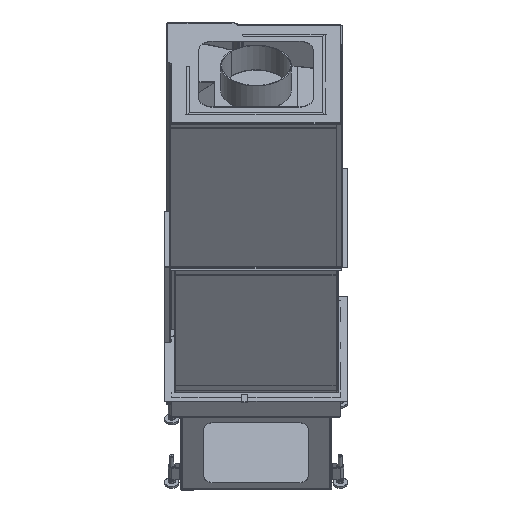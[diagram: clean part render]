
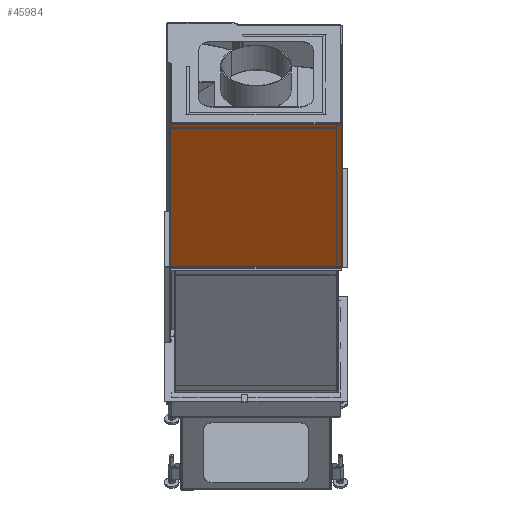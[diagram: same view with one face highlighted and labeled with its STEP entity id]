
A CAD part, isometric view. The second image highlights one B-rep face of the part: STEP entity #45984.
In plain terms, the highlighted planar face has unit normal (-0.707, -0.707, 0).
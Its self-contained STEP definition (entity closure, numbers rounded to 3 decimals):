
#45829=CARTESIAN_POINT('',(-417.897,3.674,1275.995));
#45830=VERTEX_POINT('',#45829);
#45938=CARTESIAN_POINT('',(9.028,-423.251,966.12));
#45939=DIRECTION('',(0.707,0.707,0.));
#45940=DIRECTION('',(0.0,0.0,1.0));
#45941=AXIS2_PLACEMENT_3D('',#45938,#45939,#45940);
#45942=PLANE('',#45941);
#45943=CARTESIAN_POINT('',(6.013,-420.236,1275.995));
#45944=VERTEX_POINT('',#45943);
#45945=CARTESIAN_POINT('',(7.428,-421.651,1273.995));
#45946=VERTEX_POINT('',#45945);
#45947=CARTESIAN_POINT('',(6.013,-420.236,1273.995));
#45948=DIRECTION('',(0.707,0.707,0.));
#45949=DIRECTION('',(0.5,-0.5,0.707));
#45950=AXIS2_PLACEMENT_3D('',#45947,#45948,#45949);
#45951=CIRCLE('',#45950,2.0);
#45952=EDGE_CURVE('',#45944,#45946,#45951,.T.);
#45953=ORIENTED_EDGE('',*,*,#45952,.F.);
#45954=CARTESIAN_POINT('',(-417.897,3.674,1275.995));
#45955=DIRECTION('',(0.707,-0.707,0.));
#45956=VECTOR('',#45955,599.5);
#45957=LINE('',#45954,#45956);
#45958=EDGE_CURVE('',#45830,#45944,#45957,.T.);
#45959=ORIENTED_EDGE('',*,*,#45958,.F.);
#45960=CARTESIAN_POINT('',(-417.897,3.674,660.495));
#45961=VERTEX_POINT('',#45960);
#45962=CARTESIAN_POINT('',(-417.897,3.674,1275.995));
#45963=DIRECTION('',(0.0,0.0,-1.0));
#45964=VECTOR('',#45963,615.5);
#45965=LINE('',#45962,#45964);
#45966=EDGE_CURVE('',#45830,#45961,#45965,.T.);
#45967=ORIENTED_EDGE('',*,*,#45966,.T.);
#45968=CARTESIAN_POINT('',(7.428,-421.651,660.495));
#45969=VERTEX_POINT('',#45968);
#45970=CARTESIAN_POINT('',(-417.897,3.674,660.495));
#45971=DIRECTION('',(0.707,-0.707,0.));
#45972=VECTOR('',#45971,601.5);
#45973=LINE('',#45970,#45972);
#45974=EDGE_CURVE('',#45961,#45969,#45973,.T.);
#45975=ORIENTED_EDGE('',*,*,#45974,.T.);
#45976=CARTESIAN_POINT('',(7.428,-421.651,1273.995));
#45977=DIRECTION('',(0.0,0.0,-1.0));
#45978=VECTOR('',#45977,613.5);
#45979=LINE('',#45976,#45978);
#45980=EDGE_CURVE('',#45946,#45969,#45979,.T.);
#45981=ORIENTED_EDGE('',*,*,#45980,.F.);
#45982=EDGE_LOOP('',(#45953,#45959,#45967,#45975,#45981));
#45983=FACE_OUTER_BOUND('',#45982,.T.);
#45984=ADVANCED_FACE('',(#45983),#45942,.F.);
